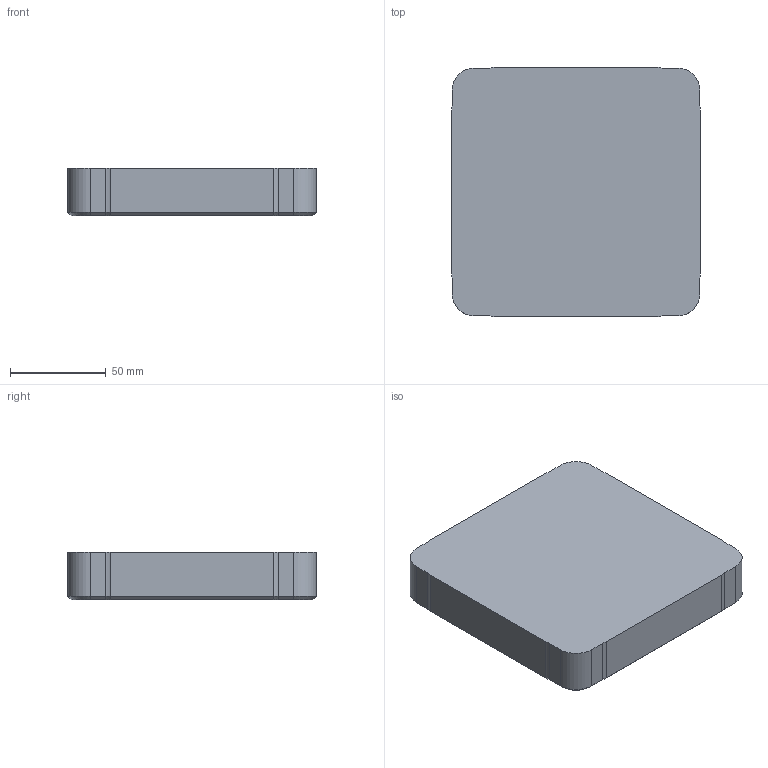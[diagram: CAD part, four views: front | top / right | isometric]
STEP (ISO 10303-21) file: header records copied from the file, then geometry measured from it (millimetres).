
FILE_DESCRIPTION (( 'STEP AP214' ), '1' );
FILE_NAME ('AS-Formeinsatz 130_130_25.STEP', '2024-02-23T09:51:19', ( '' ), ( '' ), 'SwSTEP 2.0', 'SolidWorks 2020', '' );
FILE_SCHEMA (( 'AUTOMOTIVE_DESIGN' ));
Length unit declared in the file: millimetre
Products named in the file (1): AS-Formeinsatz 130_130_25
Bounding box: 130 x 130 x 25 mm (x, y, z)
Volume: 411777.5 mm3; surface area: 47551.4 mm2
Topology: 1 solids, 1 shells, 62 faces, 148 edges, 88 vertices
Faces by surface type: plane 26, cone 20, cylinder 16
Full cylindrical faces by diameter (mm): 8.5 x4
Entity records: 1710 total; most frequent: CARTESIAN_POINT 303, DIRECTION 298, ORIENTED_EDGE 264, EDGE_CURVE 132, AXIS2_PLACEMENT_3D 111, VERTEX_POINT 84, VECTOR 76, LINE 76
